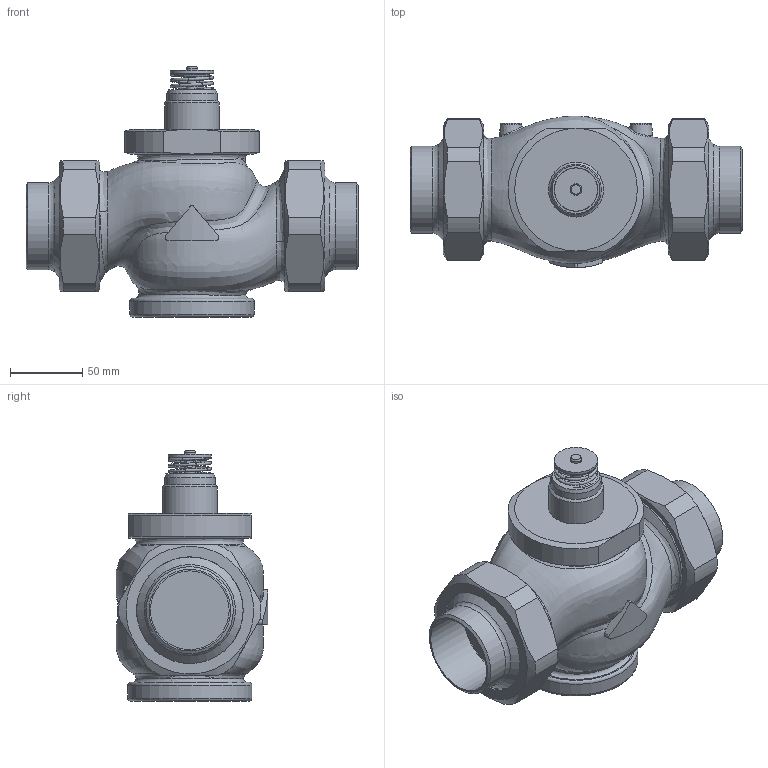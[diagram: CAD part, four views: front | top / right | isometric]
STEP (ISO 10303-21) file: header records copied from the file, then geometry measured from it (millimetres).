
FILE_DESCRIPTION(/* description */ (''),/* implementation_level */ '2;1');
FILE_NAME(/* name */ 'rv122r_dn50_W.stp',/* time_stamp */ '2012-05-31T15:53:30+02:00',/* author */ ('KLIMES'),/* organization */ ('LDM'),/* preprocessor_version */ 'ST-DEVELOPER v11',/* originating_system */ 'SIEMENS PLM Software NX 7.0',/* authorisation */ '');
FILE_SCHEMA (('CONFIG_CONTROL_DESIGN'));
Length unit declared in the file: millimetre
Products named in the file (1): klim104Evorf
Bounding box: 230 x 104.99 x 173.4 mm (x, y, z)
Volume: 206181.3 mm3; surface area: 166266.5 mm2
Topology: 6 solids, 7 shells, 173 faces, 402 edges, 257 vertices
Faces by surface type: plane 55, cylinder 49, cone 28, torus 28, bspline 13
Full cylindrical faces by diameter (mm): 8 x2, 24.5 x1, 30 x1, 35 x1, 38 x1, 54.5 x2, 60 x2, 60.3 x2, 73.8 x2, 74 x2, 77 x2, 77.8 x2, 78.576 x2, 81.534 x2, 86 x1
Entity records: 13580 total; most frequent: CARTESIAN_POINT 10170, DIRECTION 675, ORIENTED_EDGE 580, AXIS2_PLACEMENT_3D 312, EDGE_CURVE 290, EDGE_LOOP 277, VERTEX_POINT 221, FACE_BOUND 202
